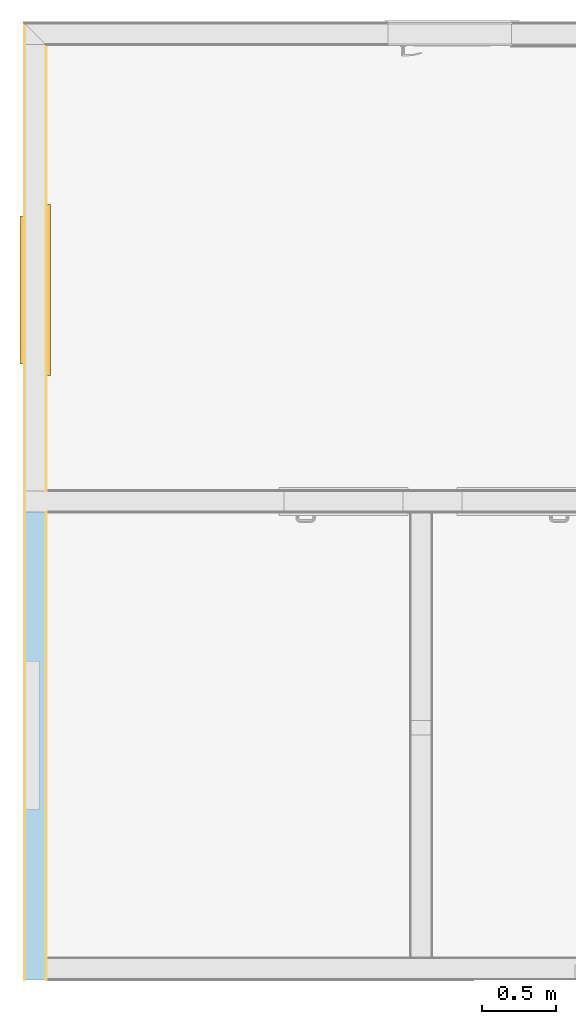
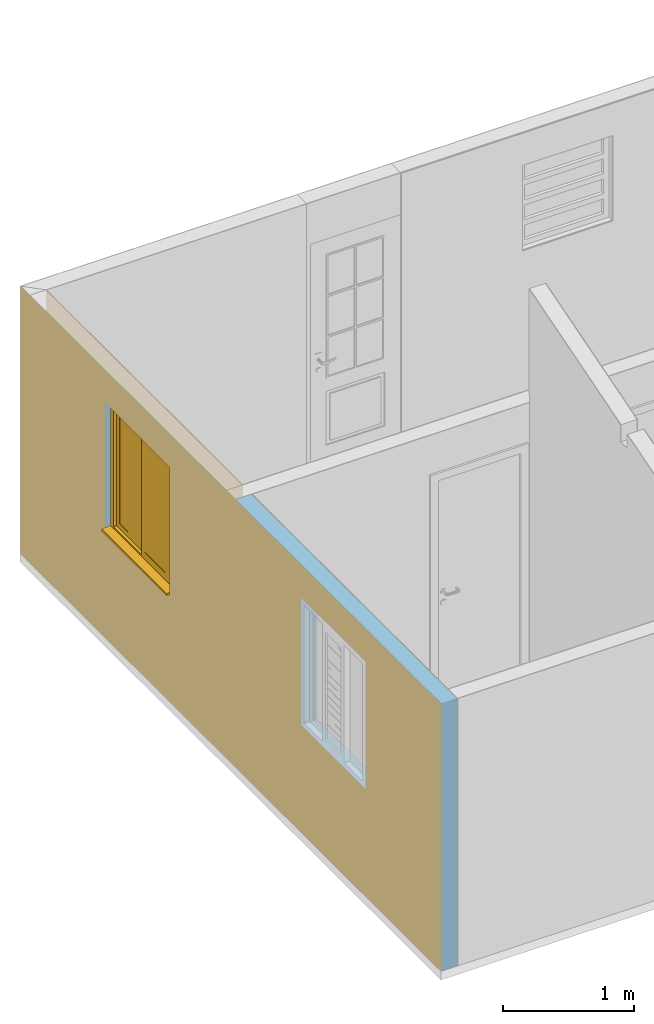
# One storey, part 4 of 11: 1 window, 2 openings, 1 element without a shape of its own, plus 3 elements that do not belong to this part.
"""IFC2X3 building model written with IfcOpenShell, lengths in millimetres."""

from ifc_helpers import new_model, entity, si_unit, converted_unit, derived_unit, money_unit, direction, frame, origin_with_axes, origin_2d_with_axis, place, context, subcontext, project, spatial, polyline, rectangle, outline, extrude, boolean, open_shell, faceted_brep, surface_model, material, type_object, element, fill, aggregate, save


model = new_model("IFC2X3")

# Units and contexts
model_context = context("Model", 3, precision=0.01, world=origin_with_axes(), true_north=direction((0.0, 1.0)))
body_context = subcontext(model_context, "Body", "Model", "MODEL_VIEW")
ifc_project = project(units=[si_unit("LENGTHUNIT", "METRE", prefix="MILLI"), si_unit("AREAUNIT", "SQUARE_METRE"), si_unit("VOLUMEUNIT", "CUBIC_METRE"), converted_unit("PLANEANGLEUNIT", "DEGREE", entity("IfcPlaneAngleMeasure", 0.0174532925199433), si_unit("PLANEANGLEUNIT", "RADIAN"), dimensions=[0, 0, 0, 0, 0, 0, 0]), money_unit("USD"), converted_unit("TIMEUNIT", "Year", entity("IfcTimeMeasure", 31557600.0), si_unit("TIMEUNIT", "SECOND"), dimensions=[0, 0, 1, 0, 0, 0, 0]), si_unit("MASSUNIT", "GRAM", prefix="KILO"), si_unit("THERMODYNAMICTEMPERATUREUNIT", "DEGREE_CELSIUS"), si_unit("LUMINOUSINTENSITYUNIT", "LUMEN"), si_unit("ENERGYUNIT", "JOULE", prefix="MEGA"), derived_unit("THERMALCONDUCTANCEUNIT", [(si_unit("POWERUNIT", "WATT"), 1), (si_unit("LENGTHUNIT", "METRE"), -1), (si_unit("THERMODYNAMICTEMPERATUREUNIT", "KELVIN"), -1)]), derived_unit("SPECIFICHEATCAPACITYUNIT", [(si_unit("ENERGYUNIT", "JOULE"), 1), (si_unit("MASSUNIT", "GRAM", prefix="KILO"), -1), (si_unit("THERMODYNAMICTEMPERATUREUNIT", "KELVIN"), -1)]), derived_unit("MASSDENSITYUNIT", [(si_unit("MASSUNIT", "GRAM", prefix="KILO"), 1), (si_unit("VOLUMEUNIT", "CUBIC_METRE"), -1)])], contexts=[model_context])

# Site, building, storey
site_placement = place(None, origin_with_axes())
site = spatial("IfcSite", under=ifc_project, at=site_placement, Name="Local", CompositionType="ELEMENT")
building_placement = place(site_placement, origin_with_axes())
building = spatial("IfcBuilding", under=site, at=building_placement, Name="Construção", CompositionType="ELEMENT")
storey_placement = place(building_placement, origin_with_axes())
storey = spatial("IfcBuildingStorey", under=building, at=storey_placement, Name="Pavimento Térreo", CompositionType="ELEMENT", Elevation=0.0)

# Window
window_style = type_object("IfcWindowStyle", Name="Janela 27", ConstructionType="NOTDEFINED", OperationType="DOUBLE_PANEL_VERTICAL", ParameterTakesPrecedence=False, Sizeable=False)
wall_placement = place(storey_placement, frame((0.0, 6450.000000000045, 0.0), z_axis=(0.0, 0.0, 1.0), x_axis=(0.0, -1.0, 0.0)))
opening_2_placement = place(wall_placement, frame((1800.000000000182, 0.0, 1000.0), z_axis=(0.0, 0.0, 1.0), x_axis=(1.0, 0.0, 0.0)))
window_placement = place(opening_2_placement, frame((500.0, 0.0, 0.0), z_axis=(0.0, 0.0, 1.0), x_axis=(-1.0, 0.0, 0.0)))
window = element("IfcWindow", 1, at=window_placement, inside=storey, type_object=window_style, Name="J02", ObjectType="WINDOW", OverallHeight=1200.0, OverallWidth=1000.0, context=body_context, shape_type="SurfaceModel", body=[
    faceted_brep([(0.0, -149.9999999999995, 0.0), (0.0, -99.99999999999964, 0.0), (1000.0, -99.99999999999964, 0.0), (1000.0, -150.0000000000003, 0.0), (0.0, -149.9999999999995, 1200.0), (0.0, -99.99999999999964, 1200.0), (1000.0, -100.0000000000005, 1200.0), (25.00000000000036, -99.99999999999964, 1175.0), (25.00000000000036, -99.99999999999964, 24.99999999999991), (974.9999999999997, -99.99999999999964, 24.99999999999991), (974.9999999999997, -99.99999999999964, 1175.0), (1000.0, -150.0000000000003, 1200.0), (974.9999999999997, -150.0000000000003, 24.99999999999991), (25.00000000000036, -149.9999999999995, 24.99999999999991), (25.00000000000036, -149.9999999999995, 1175.0), (974.9999999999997, -150.0000000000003, 1175.0)], [[[0, 1, 2, 3]], [[4, 5, 1, 0]], [[2, 1, 5, 6], [7, 8, 9, 10]], [[3, 2, 6, 11]], [[4, 0, 3, 11], [12, 13, 14, 15]], [[11, 6, 5, 4]], [[13, 8, 7, 14]], [[12, 9, 8, 13]], [[15, 10, 9, 12]], [[14, 7, 10, 15]]]),
    faceted_brep([(25.00000000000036, -174.9999999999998, 24.99999999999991), (-75.00000000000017, -174.9999999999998, -75.00000000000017), (-75.00000000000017, -149.9999999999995, -75.00000000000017), (25.00000000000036, -149.9999999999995, 24.99999999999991), (-75.00000000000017, -174.9999999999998, 1275.0), (25.00000000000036, -174.9999999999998, 1175.0), (-75.00000000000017, -149.9999999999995, 1275.0), (25.00000000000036, -149.9999999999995, 1175.0)], [[[0, 1, 2, 3]], [[4, 1, 0, 5]], [[1, 4, 6, 2]], [[3, 2, 6, 7]], [[5, 0, 3, 7]], [[4, 5, 7, 6]]]),
    faceted_brep([(974.9999999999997, -174.9999999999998, 1175.0), (1075.0, -174.9999999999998, 1275.0), (1075.0, -150.0000000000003, 1275.0), (974.9999999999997, -150.0000000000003, 1175.0), (1075.0, -174.9999999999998, -75.00000000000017), (974.9999999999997, -174.9999999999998, 24.99999999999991), (1075.0, -150.0000000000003, -75.00000000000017), (974.9999999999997, -150.0000000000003, 24.99999999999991)], [[[0, 1, 2, 3]], [[4, 1, 0, 5]], [[1, 4, 6, 2]], [[3, 2, 6, 7]], [[5, 0, 3, 7]], [[4, 5, 7, 6]]]),
    faceted_brep([(25.00000000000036, -174.9999999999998, 1175.0), (-75.00000000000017, -174.9999999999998, 1275.0), (-75.00000000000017, -149.9999999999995, 1275.0), (25.00000000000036, -149.9999999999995, 1175.0), (1075.0, -174.9999999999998, 1275.0), (974.9999999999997, -174.9999999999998, 1175.0), (1075.0, -150.0000000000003, 1275.0), (974.9999999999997, -150.0000000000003, 1175.0)], [[[0, 1, 2, 3]], [[4, 1, 0, 5]], [[1, 4, 6, 2]], [[3, 2, 6, 7]], [[5, 0, 3, 7]], [[4, 5, 7, 6]]]),
    faceted_brep([(0.0, -99.99999999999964, 1153.0), (46.99999999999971, -99.99999999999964, 1153.0), (46.99999999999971, -49.99999999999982, 1153.0), (0.0, -49.99999999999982, 1153.0), (46.99999999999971, -99.99999999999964, 46.99999999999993), (0.0, -99.99999999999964, 46.99999999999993), (46.99999999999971, -49.99999999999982, 46.99999999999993), (0.0, -49.99999999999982, 46.99999999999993)], [[[0, 1, 2, 3]], [[4, 1, 0, 5]], [[1, 4, 6, 2]], [[3, 2, 6, 7]], [[5, 0, 3, 7]], [[4, 5, 7, 6]]]),
    faceted_brep([(1000.0, -99.99999999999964, 46.99999999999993), (953.0000000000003, -99.99999999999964, 46.99999999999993), (953.0000000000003, -49.99999999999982, 46.99999999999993), (1000.0, -49.99999999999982, 46.99999999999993), (953.0000000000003, -99.99999999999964, 1153.0), (1000.0, -99.99999999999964, 1153.0), (953.0000000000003, -49.99999999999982, 1153.0), (1000.0, -49.99999999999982, 1153.0)], [[[0, 1, 2, 3]], [[4, 1, 0, 5]], [[1, 4, 6, 2]], [[3, 2, 6, 7]], [[5, 0, 3, 7]], [[4, 5, 7, 6]]]),
    faceted_brep([(1000.0, -99.99999999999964, 1153.0), (953.0000000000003, -99.99999999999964, 1153.0), (953.0000000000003, -49.99999999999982, 1153.0), (1000.0, -49.99999999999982, 1153.0), (46.99999999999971, -99.99999999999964, 1153.0), (1000.0, -100.0000000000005, 1200.0), (0.0, -99.99999999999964, 1200.0), (0.0, -99.99999999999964, 1153.0), (46.99999999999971, -49.99999999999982, 1153.0), (0.0, -49.99999999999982, 1153.0), (0.0, -49.99999999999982, 1200.0), (1000.0, -49.99999999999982, 1200.0)], [[[0, 1, 2, 3]], [[4, 1, 0, 5, 6, 7]], [[1, 4, 8, 2]], [[3, 2, 8, 9, 10, 11]], [[5, 0, 3, 11]], [[6, 5, 11, 10]], [[7, 6, 10, 9]], [[4, 7, 9, 8]]]),
    faceted_brep([(953.0000000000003, -99.99999999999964, 96.99999999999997), (903.0000000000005, -99.99999999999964, 96.99999999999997), (903.0000000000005, -75.00000000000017, 96.99999999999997), (953.0000000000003, -75.00000000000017, 96.99999999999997), (903.0000000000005, -99.99999999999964, 1103.0), (953.0000000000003, -99.99999999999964, 1103.0), (903.0000000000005, -75.00000000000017, 1103.0), (953.0000000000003, -75.00000000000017, 1103.0)], [[[0, 1, 2, 3]], [[4, 1, 0, 5]], [[1, 4, 6, 2]], [[3, 2, 6, 7]], [[5, 0, 3, 7]], [[4, 5, 7, 6]]]),
    faceted_brep([(474.9999999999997, -99.99999999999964, 1103.0), (474.9999999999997, -99.99999999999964, 1153.0), (474.9999999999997, -75.00000000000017, 1153.0), (474.9999999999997, -75.00000000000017, 1103.0), (953.0000000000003, -99.99999999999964, 1153.0), (525.0000000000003, -99.99999999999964, 1103.0), (903.0000000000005, -99.99999999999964, 1103.0), (953.0000000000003, -99.99999999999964, 1103.0), (953.0000000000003, -75.00000000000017, 1153.0), (953.0000000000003, -75.00000000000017, 1103.0), (903.0000000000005, -75.00000000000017, 1103.0), (525.0000000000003, -75.00000000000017, 1103.0)], [[[0, 1, 2, 3]], [[4, 1, 0, 5, 6, 7]], [[1, 4, 8, 2]], [[3, 2, 8, 9, 10, 11]], [[5, 0, 3, 11]], [[6, 5, 11, 10]], [[7, 6, 10, 9]], [[4, 7, 9, 8]]]),
    surface_model("IfcShellBasedSurfaceModel", [(525.0000000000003, -97.50000000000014, 96.99999999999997), (903.0000000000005, -97.50000000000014, 96.99999999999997), (903.0000000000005, -97.50000000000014, 1103.0), (525.0000000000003, -97.50000000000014, 1103.0)], [open_shell([[[0, 1, 2, 3]]])]),
    surface_model("IfcShellBasedSurfaceModel", [(525.0000000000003, -77.49999999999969, 96.99999999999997), (525.0000000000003, -77.49999999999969, 1103.0), (903.0000000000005, -77.49999999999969, 1103.0), (903.0000000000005, -77.49999999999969, 96.99999999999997)], [open_shell([[[0, 1, 2, 3]]])]),
    faceted_brep([(525.0000000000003, -75.00000000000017, 96.99999999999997), (474.9999999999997, -75.00000000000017, 96.99999999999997), (474.9999999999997, -49.99999999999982, 96.99999999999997), (525.0000000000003, -49.99999999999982, 96.99999999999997), (474.9999999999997, -75.00000000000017, 1103.0), (525.0000000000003, -75.00000000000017, 1103.0), (474.9999999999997, -49.99999999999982, 1103.0), (525.0000000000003, -49.99999999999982, 1103.0)], [[[0, 1, 2, 3]], [[4, 1, 0, 5]], [[1, 4, 6, 2]], [[3, 2, 6, 7]], [[5, 0, 3, 7]], [[4, 5, 7, 6]]]),
    faceted_brep([(46.99999999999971, -75.00000000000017, 1103.0), (46.99999999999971, -75.00000000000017, 1153.0), (46.99999999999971, -49.99999999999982, 1153.0), (46.99999999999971, -49.99999999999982, 1103.0), (525.0000000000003, -75.00000000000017, 1153.0), (96.99999999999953, -75.00000000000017, 1103.0), (474.9999999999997, -75.00000000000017, 1103.0), (525.0000000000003, -75.00000000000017, 1103.0), (525.0000000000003, -49.99999999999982, 1153.0), (525.0000000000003, -49.99999999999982, 1103.0), (474.9999999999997, -49.99999999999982, 1103.0), (96.99999999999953, -49.99999999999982, 1103.0)], [[[0, 1, 2, 3]], [[4, 1, 0, 5, 6, 7]], [[1, 4, 8, 2]], [[3, 2, 8, 9, 10, 11]], [[5, 0, 3, 11]], [[6, 5, 11, 10]], [[7, 6, 10, 9]], [[4, 7, 9, 8]]]),
    surface_model("IfcShellBasedSurfaceModel", [(96.99999999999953, -72.49999999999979, 96.99999999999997), (474.9999999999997, -72.49999999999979, 96.99999999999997), (474.9999999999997, -72.49999999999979, 1103.0), (96.99999999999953, -72.49999999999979, 1103.0)], [open_shell([[[0, 1, 2, 3]]])]),
    surface_model("IfcShellBasedSurfaceModel", [(96.99999999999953, -52.49999999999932, 96.99999999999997), (96.99999999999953, -52.50000000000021, 1103.0), (474.9999999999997, -52.50000000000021, 1103.0), (474.9999999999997, -52.49999999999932, 96.99999999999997)], [open_shell([[[0, 1, 2, 3]]])]),
    faceted_brep([(474.9999999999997, -99.99999999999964, 1103.0), (525.0000000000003, -99.99999999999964, 1103.0), (525.0000000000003, -75.00000000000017, 1103.0), (474.9999999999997, -75.00000000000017, 1103.0), (525.0000000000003, -99.99999999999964, 96.99999999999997), (474.9999999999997, -99.99999999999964, 96.99999999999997), (525.0000000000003, -75.00000000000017, 96.99999999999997), (474.9999999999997, -74.99999999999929, 96.99999999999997)], [[[0, 1, 2, 3]], [[4, 1, 0, 5]], [[1, 4, 6, 2]], [[3, 2, 6, 7]], [[5, 0, 3, 7]], [[4, 5, 7, 6]]]),
    faceted_brep([(953.0000000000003, -99.99999999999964, 96.99999999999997), (953.0000000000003, -99.99999999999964, 46.99999999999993), (953.0000000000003, -75.00000000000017, 46.99999999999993), (953.0000000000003, -75.00000000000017, 96.99999999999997), (474.9999999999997, -99.99999999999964, 46.99999999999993), (903.0000000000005, -99.99999999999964, 96.99999999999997), (525.0000000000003, -99.99999999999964, 96.99999999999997), (474.9999999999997, -99.99999999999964, 96.99999999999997), (474.9999999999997, -74.99999999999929, 46.99999999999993), (474.9999999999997, -74.99999999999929, 96.99999999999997), (525.0000000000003, -75.00000000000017, 96.99999999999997), (903.0000000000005, -75.00000000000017, 96.99999999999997)], [[[0, 1, 2, 3]], [[4, 1, 0, 5, 6, 7]], [[1, 4, 8, 2]], [[3, 2, 8, 9, 10, 11]], [[5, 0, 3, 11]], [[6, 5, 11, 10]], [[7, 6, 10, 9]], [[4, 7, 9, 8]]]),
    faceted_brep([(46.99999999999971, -75.00000000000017, 1103.0), (96.99999999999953, -75.00000000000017, 1103.0), (96.99999999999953, -49.99999999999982, 1103.0), (46.99999999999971, -49.99999999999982, 1103.0), (96.99999999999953, -74.99999999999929, 96.99999999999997), (46.99999999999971, -74.99999999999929, 96.99999999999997), (96.99999999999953, -49.99999999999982, 96.99999999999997), (46.99999999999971, -49.99999999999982, 96.99999999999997)], [[[0, 1, 2, 3]], [[4, 1, 0, 5]], [[1, 4, 6, 2]], [[3, 2, 6, 7]], [[5, 0, 3, 7]], [[4, 5, 7, 6]]]),
    faceted_brep([(525.0000000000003, -75.00000000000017, 96.99999999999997), (525.0000000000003, -75.00000000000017, 46.99999999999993), (525.0000000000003, -49.99999999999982, 46.99999999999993), (525.0000000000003, -49.99999999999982, 96.99999999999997), (46.99999999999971, -74.99999999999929, 46.99999999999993), (474.9999999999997, -75.00000000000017, 96.99999999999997), (96.99999999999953, -74.99999999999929, 96.99999999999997), (46.99999999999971, -74.99999999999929, 96.99999999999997), (46.99999999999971, -49.99999999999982, 46.99999999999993), (46.99999999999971, -49.99999999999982, 96.99999999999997), (96.99999999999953, -49.99999999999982, 96.99999999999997), (474.9999999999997, -49.99999999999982, 96.99999999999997)], [[[0, 1, 2, 3]], [[4, 1, 0, 5, 6, 7]], [[1, 4, 8, 2]], [[3, 2, 8, 9, 10, 11]], [[5, 0, 3, 11]], [[6, 5, 11, 10]], [[7, 6, 10, 9]], [[4, 7, 9, 8]]]),
    faceted_brep([(0.0, -49.99999999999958, 4.999999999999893), (0.0, -49.99999999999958, 30.00000000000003), (0.0, 0.0, 27.37961103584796), (0.0, 0.0, 5.000000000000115), (1000.0, -49.99999999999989, 4.999999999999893), (1000.0, -49.99999999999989, 30.00000000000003), (1000.0, 0.0, 27.37961103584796), (1000.0, 30.00000000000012, 25.80737765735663), (0.0, 30.00000000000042, 25.80737765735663), (0.0, 30.00000000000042, 5.000000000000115), (1000.0, 30.00000000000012, 5.000000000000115), (1000.0, 0.0, 5.000000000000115)], [[[0, 1, 2, 3]], [[4, 5, 1, 0]], [[1, 5, 6, 7, 8, 2]], [[3, 2, 8, 9]], [[0, 3, 9, 10, 11, 4]], [[11, 6, 5, 4]], [[10, 7, 6, 11]], [[9, 8, 7, 10]]]),
    faceted_brep([(0.0, -49.99999999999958, 0.0), (0.0, -49.99999999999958, 4.999999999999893), (0.0, 0.0, 4.999999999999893), (0.0, 0.0, 0.0), (1000.0, -49.99999999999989, 0.0), (1000.0, -49.99999999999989, 4.999999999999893), (1000.0, 0.0, 4.999999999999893), (1000.0, 0.0, 0.0)], [[[0, 1, 2, 3]], [[4, 5, 1, 0]], [[1, 5, 6, 2]], [[3, 2, 6, 7]], [[0, 3, 7, 4]], [[7, 6, 5, 4]]]),
    faceted_brep([(1075.0, -174.9999999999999, -75.00000000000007), (1075.0, -149.9999999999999, -75.00000000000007), (974.9999999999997, -149.9999999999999, 24.99999999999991), (974.9999999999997, -174.9999999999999, 24.99999999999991), (-75.00000000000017, -174.9999999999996, -75.00000000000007), (-75.00000000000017, -149.9999999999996, -75.00000000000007), (25.00000000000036, -149.9999999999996, 24.99999999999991), (25.00000000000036, -174.9999999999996, 24.99999999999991)], [[[0, 1, 2, 3]], [[4, 5, 1, 0]], [[1, 5, 6, 2]], [[3, 2, 6, 7]], [[0, 3, 7, 4]], [[7, 6, 5, 4]]]),
    faceted_brep([(46.99999999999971, -99.9999999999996, 46.99999999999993), (46.99999999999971, -49.9999999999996, 46.99999999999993), (0.0, -49.99999999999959, 46.99999999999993), (0.0, -99.99999999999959, 46.99999999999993), (953.0000000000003, -99.99999999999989, 46.99999999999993), (953.0000000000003, -49.99999999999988, 46.99999999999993), (1000.0, -49.99999999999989, 46.99999999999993), (1000.0, -49.99999999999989, 0.0), (0.0, -49.99999999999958, 0.0), (0.0, -99.99999999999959, 0.0), (1000.0, -99.9999999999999, 0.0), (1000.0, -99.9999999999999, 46.99999999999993)], [[[0, 1, 2, 3]], [[4, 5, 1, 0]], [[1, 5, 6, 7, 8, 2]], [[3, 2, 8, 9]], [[0, 3, 9, 10, 11, 4]], [[11, 6, 5, 4]], [[10, 7, 6, 11]], [[9, 8, 7, 10]]]),
])

# Wall, openings
wall_type = type_object("IfcWallType", Name="Alvenaria 140, Rebocada 2 Faces 150", PredefinedType="NOTDEFINED")
wall = element("IfcWall", 2, at=wall_placement, inside=storey, type_object=wall_type, Name="Parede-01")
opening_1_placement = place(wall_placement, frame((4800.000000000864, 0.0, 1000.0), z_axis=(0.0, 0.0, 1.0), x_axis=(1.0, 0.0, 0.0)))
element("IfcOpeningElement", 3, at=opening_1_placement, cuts=wall, Name="J03", context=body_context, shape_type="SweptSolid", body=[
    extrude(rectangle(XDim=1000.0, YDim=1200.0, at=origin_2d_with_axis()), frame((0.0, 150.0000000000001, 600.0000000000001), z_axis=(0.0, 1.0, 0.0), x_axis=(1.0, 0.0, 0.0)), (0.0, 0.0, -1.0), 450.0000000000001),
])
opening_2 = element("IfcOpeningElement", 4, at=opening_2_placement, cuts=wall, Name="J02", context=body_context, shape_type="SweptSolid", body=[
    extrude(rectangle(XDim=1000.0, YDim=1200.0, at=origin_2d_with_axis()), frame((0.0, 49.99999999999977, 600.0000000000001), z_axis=(0.0, -1.0, 0.0), x_axis=(-1.0, 0.0, 0.0)), (0.0, 0.0, -1.0), 250.0000000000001),
    extrude(rectangle(XDim=1000.0, YDim=1200.0, at=origin_2d_with_axis()), frame((0.0, 49.99999999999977, 600.0000000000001), z_axis=(0.0, 1.0, 0.0), x_axis=(-1.0, 0.0, 0.0)), (0.0, 0.0, -1.0), 200.0),
    extrude(rectangle(XDim=1150.0, YDim=1350.0, at=origin_2d_with_axis()), frame((0.0, 149.9999999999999, 599.9999999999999), z_axis=(0.0, -1.0, 0.0), x_axis=(-1.0, 0.0, 0.0)), (0.0, 0.0, -1.0), 200.0),
])

fill(opening_2, window)

# Covering
ifc_material_1 = material(Name="Reboco DEF")
covering_1_placement = place(wall_placement, origin_with_axes())
covering_1 = element("IfcCovering", 5, at=covering_1_placement, material=ifc_material_1, Name="Reboco DEF", PredefinedType="CLADDING", context=body_context, shape_type="CSG", body=[
    boolean("DIFFERENCE", boolean("DIFFERENCE", boolean("DIFFERENCE", extrude(outline(polyline([(0.0, 0.0), (6450.000000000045, 0.0), (6450.000000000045, 5.000000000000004), (0.0, 5.000000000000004), (0.0, 0.0)])), origin_with_axes(), (0.0, 0.0, 1.0), 2500.0), faceted_brep([(3295.000000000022, 144.9999999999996, 2300.0), (4.999999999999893, 144.9999999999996, 2300.0), (4.999999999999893, 144.9999999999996, 0.0), (0.0, 145.0, 0.0), (0.0, 145.0, 2500.0), (3295.000000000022, 144.9999999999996, 2500.0), (3295.000000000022, 4.999999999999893, 2300.0), (4.999999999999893, 4.999999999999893, 2300.0), (5.000000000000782, 4.999999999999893, 0.0), (0.0, 5.000000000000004, 0.0), (0.0, 5.000000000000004, 2500.0), (3295.000000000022, 4.999999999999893, 2500.0)], [[[0, 1, 2, 3, 4, 5]], [[1, 0, 6, 7]], [[2, 1, 7, 8]], [[2, 8, 9, 3]], [[4, 3, 9, 10]], [[11, 5, 4, 10]], [[5, 11, 6, 0]], [[6, 11, 10, 9, 8, 7]]])), faceted_brep([(3155.000000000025, 150.0000000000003, 2500.0), (3155.000000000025, 144.9999999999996, 2500.0), (3295.000000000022, 144.9999999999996, 2500.0), (3295.000000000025, 150.0000000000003, 2500.0), (3155.000000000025, 149.9999999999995, 0.0), (3155.000000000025, 144.9999999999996, 0.0), (3295.000000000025, 144.9999999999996, 0.0), (3295.000000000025, 149.9999999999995, 0.0)], [[[0, 1, 2, 3]], [[1, 0, 4, 5]], [[1, 5, 6, 2]], [[7, 3, 2, 6]], [[4, 0, 3, 7]], [[5, 4, 7, 6]]])), faceted_brep([(144.9999999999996, 144.9999999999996, 2500.0), (144.9999999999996, 150.0000000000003, 2500.0), (0.0, 150.0, 2500.0), (0.0, 145.0, 2500.0), (144.9999999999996, 150.0000000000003, 0.0), (144.9999999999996, 144.9999999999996, 0.0), (0.0, 150.0, 0.0), (0.0, 145.0, 0.0)], [[[0, 1, 2, 3]], [[4, 1, 0, 5]], [[1, 4, 6, 2]], [[2, 6, 7, 3]], [[5, 0, 3, 7]], [[4, 5, 7, 6]]])),
])

covering_2_placement = place(wall_placement, origin_with_axes())
covering_2 = element("IfcCovering", 6, at=covering_2_placement, material=ifc_material_1, Name="Reboco DEF", PredefinedType="CLADDING", context=body_context, shape_type="CSG", body=[
    boolean("DIFFERENCE", boolean("DIFFERENCE", boolean("DIFFERENCE", extrude(outline(polyline([(0.0, 145.0), (6450.000000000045, 145.0), (6450.000000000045, 150.0), (0.0, 150.0), (0.0, 145.0)])), origin_with_axes(), (0.0, 0.0, 1.0), 2500.0), faceted_brep([(3295.000000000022, 144.9999999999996, 2300.0), (4.999999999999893, 144.9999999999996, 2300.0), (4.999999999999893, 144.9999999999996, 0.0), (0.0, 145.0, 0.0), (0.0, 145.0, 2500.0), (3295.000000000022, 144.9999999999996, 2500.0), (3295.000000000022, 4.999999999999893, 2300.0), (4.999999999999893, 4.999999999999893, 2300.0), (5.000000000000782, 4.999999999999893, 0.0), (0.0, 5.000000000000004, 0.0), (0.0, 5.000000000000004, 2500.0), (3295.000000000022, 4.999999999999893, 2500.0)], [[[0, 1, 2, 3, 4, 5]], [[1, 0, 6, 7]], [[2, 1, 7, 8]], [[2, 8, 9, 3]], [[4, 3, 9, 10]], [[11, 5, 4, 10]], [[5, 11, 6, 0]], [[6, 11, 10, 9, 8, 7]]])), faceted_brep([(3155.000000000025, 150.0000000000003, 2500.0), (3155.000000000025, 144.9999999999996, 2500.0), (3295.000000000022, 144.9999999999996, 2500.0), (3295.000000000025, 150.0000000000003, 2500.0), (3155.000000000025, 149.9999999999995, 0.0), (3155.000000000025, 144.9999999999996, 0.0), (3295.000000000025, 144.9999999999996, 0.0), (3295.000000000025, 149.9999999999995, 0.0)], [[[0, 1, 2, 3]], [[1, 0, 4, 5]], [[1, 5, 6, 2]], [[7, 3, 2, 6]], [[4, 0, 3, 7]], [[5, 4, 7, 6]]])), faceted_brep([(144.9999999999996, 144.9999999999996, 2500.0), (144.9999999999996, 150.0000000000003, 2500.0), (0.0, 150.0, 2500.0), (0.0, 145.0, 2500.0), (144.9999999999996, 150.0000000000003, 0.0), (144.9999999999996, 144.9999999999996, 0.0), (0.0, 150.0, 0.0), (0.0, 145.0, 0.0)], [[[0, 1, 2, 3]], [[4, 1, 0, 5]], [[1, 4, 6, 2]], [[2, 6, 7, 3]], [[5, 0, 3, 7]], [[4, 5, 7, 6]]])),
])

# Building element part
ifc_material_2 = material(Name="Bloco de Concreto - Estrutural DEF")
building_element_part_placement = place(wall_placement, origin_with_axes())
building_element_part = element("IfcBuildingElementPart", 7, at=building_element_part_placement, material=ifc_material_2, Name="Bloco de Concreto - Estrutural DEF", context=body_context, shape_type="CSG", body=[
    boolean("DIFFERENCE", boolean("DIFFERENCE", boolean("DIFFERENCE", extrude(outline(polyline([(0.0, 4.999999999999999), (6450.000000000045, 4.999999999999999), (6450.000000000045, 145.0), (0.0, 145.0), (0.0, 4.999999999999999)])), origin_with_axes(), (0.0, 0.0, 1.0), 2500.0), faceted_brep([(3295.000000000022, 144.9999999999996, 2300.0), (4.999999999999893, 144.9999999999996, 2300.0), (4.999999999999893, 144.9999999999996, 0.0), (0.0, 145.0, 0.0), (0.0, 145.0, 2500.0), (3295.000000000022, 144.9999999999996, 2500.0), (3295.000000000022, 4.999999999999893, 2300.0), (4.999999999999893, 4.999999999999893, 2300.0), (5.000000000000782, 4.999999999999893, 0.0), (0.0, 5.000000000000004, 0.0), (0.0, 5.000000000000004, 2500.0), (3295.000000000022, 4.999999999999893, 2500.0)], [[[0, 1, 2, 3, 4, 5]], [[1, 0, 6, 7]], [[2, 1, 7, 8]], [[2, 8, 9, 3]], [[4, 3, 9, 10]], [[11, 5, 4, 10]], [[5, 11, 6, 0]], [[6, 11, 10, 9, 8, 7]]])), faceted_brep([(3155.000000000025, 150.0000000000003, 2500.0), (3155.000000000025, 144.9999999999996, 2500.0), (3295.000000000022, 144.9999999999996, 2500.0), (3295.000000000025, 150.0000000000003, 2500.0), (3155.000000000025, 149.9999999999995, 0.0), (3155.000000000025, 144.9999999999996, 0.0), (3295.000000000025, 144.9999999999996, 0.0), (3295.000000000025, 149.9999999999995, 0.0)], [[[0, 1, 2, 3]], [[1, 0, 4, 5]], [[1, 5, 6, 2]], [[7, 3, 2, 6]], [[4, 0, 3, 7]], [[5, 4, 7, 6]]])), faceted_brep([(144.9999999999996, 144.9999999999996, 2500.0), (144.9999999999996, 150.0000000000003, 2500.0), (0.0, 150.0, 2500.0), (0.0, 145.0, 2500.0), (144.9999999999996, 150.0000000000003, 0.0), (144.9999999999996, 144.9999999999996, 0.0), (0.0, 150.0, 0.0), (0.0, 145.0, 0.0)], [[[0, 1, 2, 3]], [[4, 1, 0, 5]], [[1, 4, 6, 2]], [[2, 6, 7, 3]], [[5, 0, 3, 7]], [[4, 5, 7, 6]]])),
])

aggregate(wall, [building_element_part, covering_1, covering_2])

save(model, "model.ifc")
